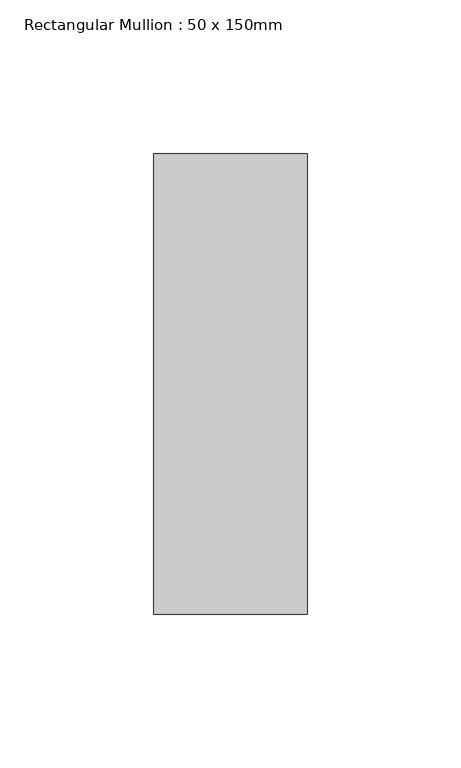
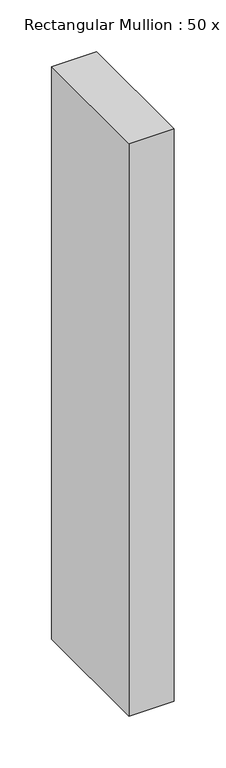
"""IFC4 building model written with IfcOpenShell, lengths in millimetres: member geometry, Rectangular Mullion : 50 x 150mm."""

from ifc_helpers import new_model, si_unit, frame, origin, place, context, project, spatial, polyline, outline, extrude, source, transform, mapped, element, save


def rectangular_mullion_50_x_150mm_1348d4e1(model_context):
    return source(origin(), model_context, "Body", "SweptSolid", [
        extrude(outline(polyline([(25.0, 75.0), (25.0, -75.0), (-25.0, -75.0), (-25.0, 75.0), (25.0, 75.0)])), frame((0.0, 0.0, -674.9999998), z_axis=(0.0, 0.0, 1.0), x_axis=(1.0, 0.0, 0.0)), (0.0, 0.0, 1.0), 674.9999998),
    ])


if __name__ == "__main__":
    model = new_model("IFC4")
    model_context = context("Model", 3, world=origin())
    ifc_project = project(units=[si_unit("LENGTHUNIT", "METRE", prefix="MILLI")], contexts=[model_context])
    site = spatial("IfcSite", under=ifc_project)
    building = spatial("IfcBuilding", under=site)
    placement = place(None, origin())
    rectangular_mullion_50_x_150mm_shape = rectangular_mullion_50_x_150mm_1348d4e1(model_context)
    element("IfcMember", 1, ObjectType="Rectangular Mullion : 50 x 150mm", at=placement, inside=building, context=model_context, shape_type="MappedRepresentation", body=[
        mapped(rectangular_mullion_50_x_150mm_shape, transform((0.0, 0.0, 0.0), x_axis=(1.0, 0.0, 0.0), y_axis=(0.0, 1.0, 0.0), z_axis=(0.0, 0.0, 1.0))),
    ])
    save(model, "model.ifc")
